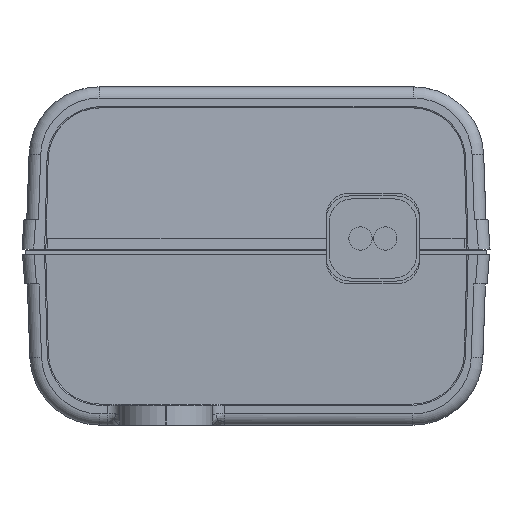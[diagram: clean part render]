
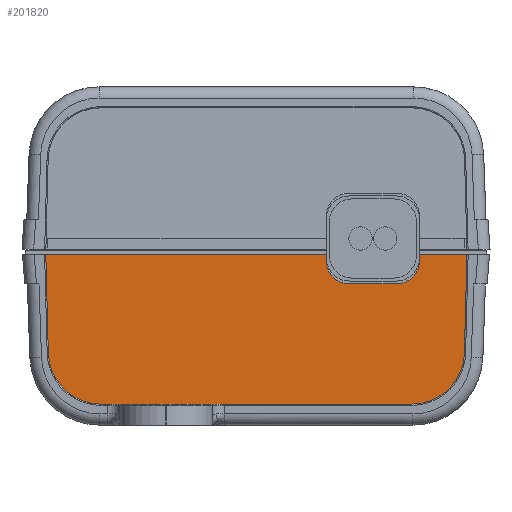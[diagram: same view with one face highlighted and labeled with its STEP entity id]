
A CAD part, left-side view. The second image highlights one B-rep face of the part: STEP entity #201820.
In plain terms, the highlighted planar face has unit normal (-0.999, 0, -0.035).
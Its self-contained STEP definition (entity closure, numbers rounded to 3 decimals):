
#32170=CARTESIAN_POINT('',(44.802,63.334,
15.401));
#32180=DIRECTION('',(-0.999,0.,-0.035));
#32190=DIRECTION('',(0.035,0.,-0.999));
#32200=AXIS2_PLACEMENT_3D('',#32170,#32180,#32190);
#32210=CIRCLE('',#32200,0.5);
#32220=CARTESIAN_POINT('',(44.802,63.835,
15.401));
#32230=VERTEX_POINT('',#32220);
#32240=CARTESIAN_POINT('',(44.815,63.684,
15.044));
#32250=VERTEX_POINT('',#32240);
#32260=EDGE_CURVE('',#32230,#32250,#32210,.T.);
#196770=CARTESIAN_POINT('',(44.778,56.034,
16.101));
#196780=VERTEX_POINT('',#196770);
#196810=CARTESIAN_POINT('',(45.253,56.034,2.5));
#196820=DIRECTION('',(-0.035,0.,
0.999));
#196830=VECTOR('',#196820,1.);
#196840=LINE('',#196810,#196830);
#196850=CARTESIAN_POINT('',(44.802,56.034,
15.401));
#196860=VERTEX_POINT('',#196850);
#196870=EDGE_CURVE('',#196860,#196780,#196840,.T.);
#198720=CARTESIAN_POINT('',(45.253,63.834,2.5));
#198730=DIRECTION('',(0.035,0.,
-0.999));
#198740=VECTOR('',#198730,1.);
#198750=LINE('',#198720,#198740);
#198760=CARTESIAN_POINT('',(44.778,63.834,
16.101));
#198770=VERTEX_POINT('',#198760);
#198780=EDGE_CURVE('',#198770,#32230,#198750,.T.);
#199220=CARTESIAN_POINT('',(44.778,87.974,
16.101));
#199230=VERTEX_POINT('',#199220);
#200170=CARTESIAN_POINT('',(44.778,0.,16.101));
#200180=DIRECTION('',(0.,1.,0.));
#200190=VECTOR('',#200180,1.);
#200200=LINE('',#200170,#200190);
#200210=EDGE_CURVE('',#198770,#199230,#200200,.T.);
#200720=CARTESIAN_POINT('',(44.434,80.383,
25.942));
#200730=DIRECTION('',(-0.999,-0.,-0.035));
#200740=DIRECTION('',(0.,-1.,0.));
#200750=AXIS2_PLACEMENT_3D('',#200720,#200730,#200740);
#200760=PLANE('',#200750);
#200770=CARTESIAN_POINT('',(45.068,83.255,7.8));
#200780=DIRECTION('',(-0.999,0.,-0.035));
#200790=DIRECTION('',(0.035,0.,-0.999));
#200800=AXIS2_PLACEMENT_3D('',#200770,#200780,#200790);
#200810=CIRCLE('',#200800,4.503);
#200820=CARTESIAN_POINT('',(45.072,87.756,
7.682));
#200830=VERTEX_POINT('',#200820);
#200840=CARTESIAN_POINT('',(45.225,83.255,3.3));
#200850=VERTEX_POINT('',#200840);
#200860=EDGE_CURVE('',#200830,#200850,#200810,.T.);
#200870=ORIENTED_EDGE('',*,*,#200860,.T.);
#200880=CARTESIAN_POINT('',(45.253,87.618,2.5));
#200890=DIRECTION('',(0.035,-0.026,
-0.999));
#200900=VECTOR('',#200890,1.);
#200910=LINE('',#200880,#200900);
#200920=EDGE_CURVE('',#199230,#200830,#200910,.T.);
#200930=ORIENTED_EDGE('',*,*,#200920,.T.);
#200940=ORIENTED_EDGE('',*,*,#200210,.T.);
#200950=ORIENTED_EDGE('',*,*,#198780,.F.);
#200960=ORIENTED_EDGE('',*,*,#32260,.F.);
#200970=CARTESIAN_POINT('',(45.34,63.684,0.));
#200980=DIRECTION('',(0.035,0.,
-0.999));
#200990=VECTOR('',#200980,1.);
#201000=LINE('',#200970,#200990);
#201010=CARTESIAN_POINT('',(44.816,63.684,
15.001));
#201020=VERTEX_POINT('',#201010);
#201030=EDGE_CURVE('',#32250,#201020,#201000,.T.);
#201040=ORIENTED_EDGE('',*,*,#201030,.F.);
#201050=CARTESIAN_POINT('',(44.816,0.,15.001));
#201060=DIRECTION('',(0.,-1.,0.));
#201070=VECTOR('',#201060,1.);
#201080=LINE('',#201050,#201070);
#201090=CARTESIAN_POINT('',(44.816,63.634,
15.001));
#201100=VERTEX_POINT('',#201090);
#201110=EDGE_CURVE('',#201020,#201100,#201080,.T.);
#201120=ORIENTED_EDGE('',*,*,#201110,.F.);
#201130=CARTESIAN_POINT('',(44.82,63.334,
14.901));
#201140=VERTEX_POINT('',#201130);
#201150=EDGE_CURVE('',#201100,#201140,#32210,.T.);
#201160=ORIENTED_EDGE('',*,*,#201150,.F.);
#201170=CARTESIAN_POINT('',(44.82,0.,14.901));
#201180=DIRECTION('',(0.,1.,0.));
#201190=VECTOR('',#201180,1.);
#201200=LINE('',#201170,#201190);
#201210=CARTESIAN_POINT('',(44.82,56.534,
14.901));
#201220=VERTEX_POINT('',#201210);
#201230=EDGE_CURVE('',#201220,#201140,#201200,.T.);
#201240=ORIENTED_EDGE('',*,*,#201230,.T.);
#201250=CARTESIAN_POINT('',(44.802,56.534,
15.401));
#201260=DIRECTION('',(-0.999,0.,-0.035));
#201270=DIRECTION('',(0.035,0.,-0.999));
#201280=AXIS2_PLACEMENT_3D('',#201250,#201260,#201270);
#201290=CIRCLE('',#201280,0.5);
#201300=CARTESIAN_POINT('',(44.816,56.234,
15.001));
#201310=VERTEX_POINT('',#201300);
#201320=EDGE_CURVE('',#201220,#201310,#201290,.T.);
#201330=ORIENTED_EDGE('',*,*,#201320,.F.);
#201340=CARTESIAN_POINT('',(44.816,56.184,
15.001));
#201350=VERTEX_POINT('',#201340);
#201360=EDGE_CURVE('',#201310,#201350,#201080,.T.);
#201370=ORIENTED_EDGE('',*,*,#201360,.F.);
#201380=CARTESIAN_POINT('',(45.34,56.184,0.));
#201390=DIRECTION('',(-0.035,0.,
0.999));
#201400=VECTOR('',#201390,1.);
#201410=LINE('',#201380,#201400);
#201420=CARTESIAN_POINT('',(44.815,56.184,
15.044));
#201430=VERTEX_POINT('',#201420);
#201440=EDGE_CURVE('',#201350,#201430,#201410,.T.);
#201450=ORIENTED_EDGE('',*,*,#201440,.F.);
#201460=EDGE_CURVE('',#201430,#196860,#201290,.T.);
#201470=ORIENTED_EDGE('',*,*,#201460,.F.);
#201480=ORIENTED_EDGE('',*,*,#196870,.F.);
#201490=CARTESIAN_POINT('',(44.778,0.,16.101));
#201500=DIRECTION('',(0.,1.,0.));
#201510=VECTOR('',#201500,1.);
#201520=LINE('',#201490,#201510);
#201530=CARTESIAN_POINT('',(44.778,51.867,
16.101));
#201540=VERTEX_POINT('',#201530);
#201550=EDGE_CURVE('',#201540,#196780,#201520,.T.);
#201560=ORIENTED_EDGE('',*,*,#201550,.T.);
#201570=CARTESIAN_POINT('',(45.253,52.223,2.5));
#201580=DIRECTION('',(-0.035,-0.026,
0.999));
#201590=VECTOR('',#201580,1.);
#201600=LINE('',#201570,#201590);
#201610=CARTESIAN_POINT('',(45.072,52.084,
7.682));
#201620=VERTEX_POINT('',#201610);
#201630=EDGE_CURVE('',#201620,#201540,#201600,.T.);
#201640=ORIENTED_EDGE('',*,*,#201630,.T.);
#201650=CARTESIAN_POINT('',(45.068,56.585,7.8));
#201660=DIRECTION('',(-0.999,0.,-0.035));
#201670=DIRECTION('',(0.035,0.,-0.999));
#201680=AXIS2_PLACEMENT_3D('',#201650,#201660,#201670);
#201690=CIRCLE('',#201680,4.503);
#201700=CARTESIAN_POINT('',(45.225,56.585,3.3));
#201710=VERTEX_POINT('',#201700);
#201720=EDGE_CURVE('',#201710,#201620,#201690,.T.);
#201730=ORIENTED_EDGE('',*,*,#201720,.T.);
#201740=CARTESIAN_POINT('',(45.225,0.,3.3));
#201750=DIRECTION('',(0.,-1.,0.));
#201760=VECTOR('',#201750,1.);
#201770=LINE('',#201740,#201760);
#201780=EDGE_CURVE('',#200850,#201710,#201770,.T.);
#201790=ORIENTED_EDGE('',*,*,#201780,.T.);
#201800=EDGE_LOOP('',(#201790,#201730,#201640,#201560,#201480,#201470,
#201450,#201370,#201330,#201240,#201160,#201120,#201040,#200960,#200950,
#200940,#200930,#200870));
#201810=FACE_OUTER_BOUND('',#201800,.T.);
#201820=ADVANCED_FACE('',(#201810),#200760,.T.);
